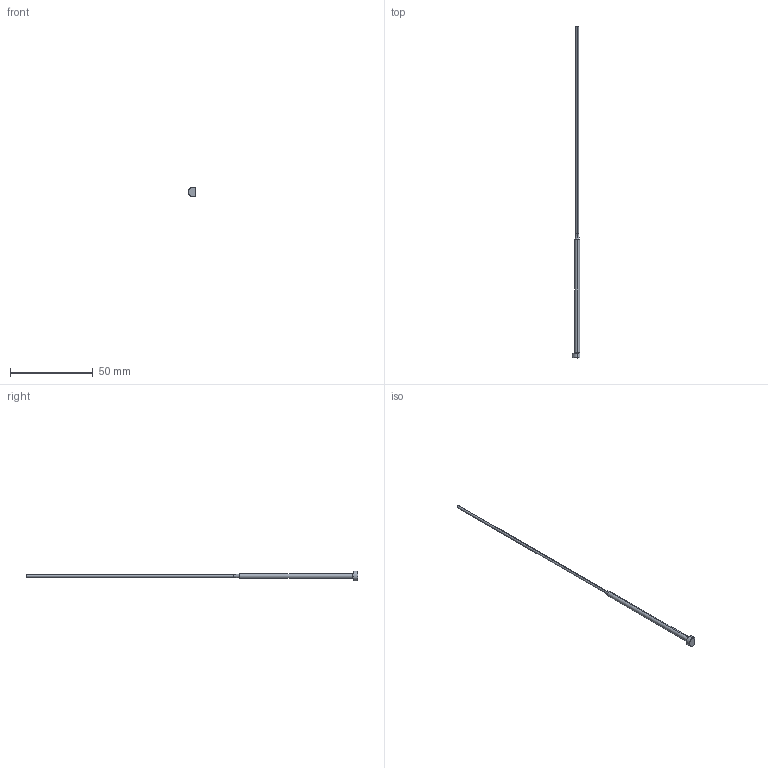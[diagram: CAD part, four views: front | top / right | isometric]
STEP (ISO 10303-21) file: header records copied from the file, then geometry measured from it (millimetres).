
FILE_DESCRIPTION (( 'STEP AP203' ), '1' );
FILE_NAME ('EPD016X3L200-75-K.step', '2022-04-05T12:48:25', ( 'Microsoft Corporation' ), ( 'MS' ), 'SwSTEP 2.0', 'SolidWorks 2019', '' );
FILE_SCHEMA (( 'CONFIG_CONTROL_DESIGN' ));
Length unit declared in the file: millimetre
Products named in the file (1): EPD016X3L200-75-K
Bounding box: 4.5 x 200 x 6 mm (x, y, z)
Volume: 815 mm3; surface area: 1386.3 mm2
Topology: 1 solids, 1 shells, 22 faces, 49 edges, 29 vertices
Faces by surface type: cylinder 7, cone 6, torus 5, plane 4
Entity records: 700 total; most frequent: CARTESIAN_POINT 123, DIRECTION 117, ORIENTED_EDGE 98, AXIS2_PLACEMENT_3D 51, EDGE_CURVE 49, VERTEX_POINT 29, CIRCLE 28, FACE_OUTER_BOUND 22
